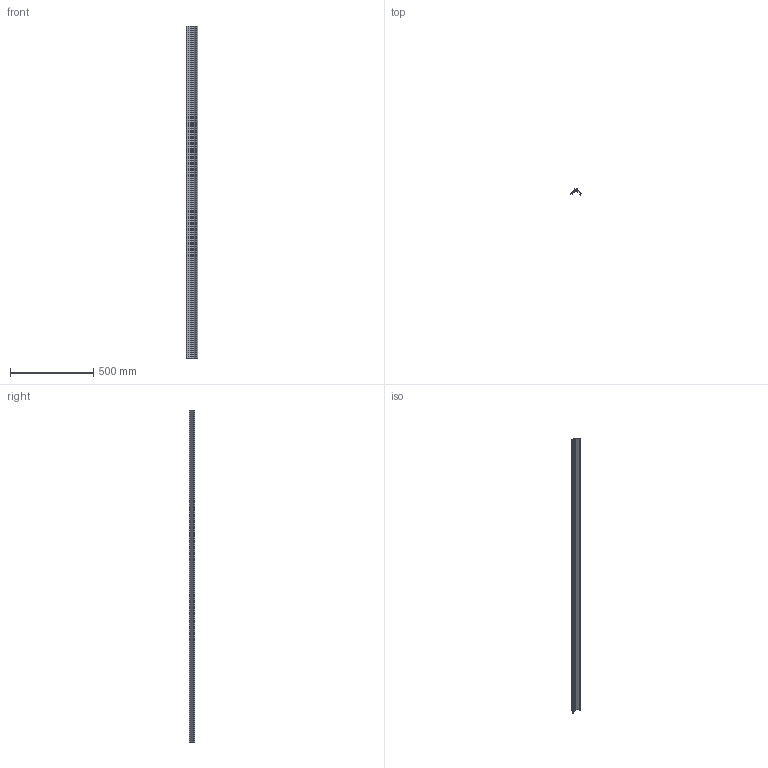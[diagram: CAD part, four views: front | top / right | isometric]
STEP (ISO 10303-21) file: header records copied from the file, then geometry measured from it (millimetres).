
FILE_DESCRIPTION (( 'STEP AP203' ), '1' );
FILE_NAME ('2231-120.STEP', '2025-08-14T09:00:32', ( '' ), ( '' ), 'SwSTEP 2.0', 'SolidWorks 2024', '' );
FILE_SCHEMA (( 'CONFIG_CONTROL_DESIGN' ));
Length unit declared in the file: millimetre
Products named in the file (1): 2231-120
Bounding box: 67.5 x 35.87 x 2000 mm (x, y, z)
Volume: 1099014.3 mm3; surface area: 479192.9 mm2
Topology: 1 solids, 1 shells, 45 faces, 129 edges, 86 vertices
Faces by surface type: plane 31, cylinder 14
Entity records: 1548 total; most frequent: CARTESIAN_POINT 261, ORIENTED_EDGE 258, DIRECTION 249, EDGE_CURVE 129, VECTOR 101, LINE 101, VERTEX_POINT 86, AXIS2_PLACEMENT_3D 74
